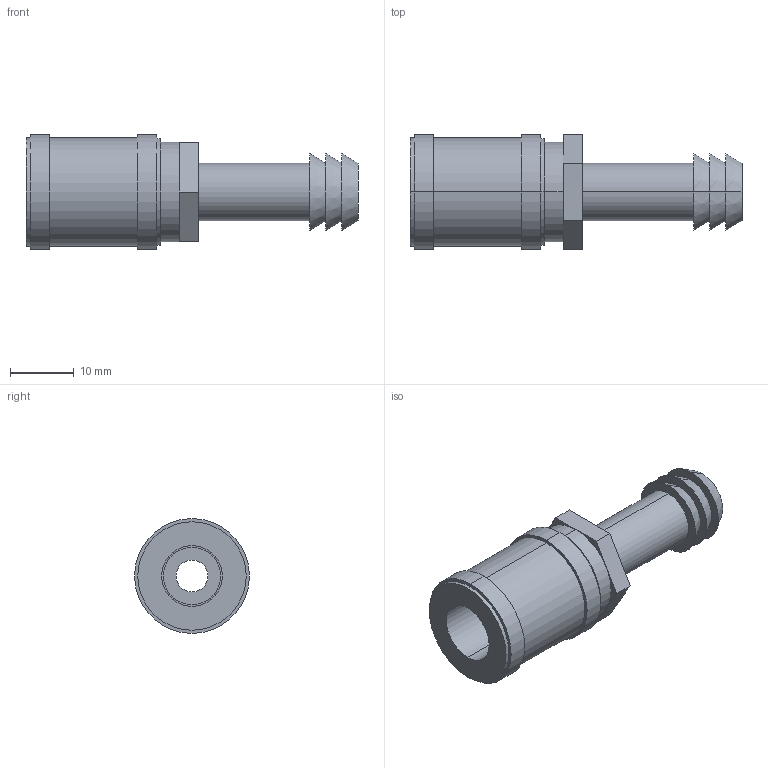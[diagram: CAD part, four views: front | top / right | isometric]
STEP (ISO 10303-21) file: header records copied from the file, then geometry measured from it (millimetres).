
FILE_DESCRIPTION (( 'STEP AP214' ), '1' );
FILE_NAME ('BR803-9.STEP', '2020-06-23T08:49:29', ( '' ), ( '' ), 'SwSTEP 2.0', 'SolidWorks 2018', '' );
FILE_SCHEMA (( 'AUTOMOTIVE_DESIGN' ));
Length unit declared in the file: millimetre
Products named in the file (1): BR803-9
Bounding box: 52 x 18 x 18 mm (x, y, z)
Volume: 5501.2 mm3; surface area: 4140 mm2
Topology: 2 solids, 2 shells, 43 faces, 90 edges, 60 vertices
Faces by surface type: plane 19, cylinder 18, cone 6
Entity records: 1223 total; most frequent: DIRECTION 226, CARTESIAN_POINT 194, ORIENTED_EDGE 180, AXIS2_PLACEMENT_3D 92, EDGE_CURVE 90, VERTEX_POINT 60, EDGE_LOOP 56, CIRCLE 48
